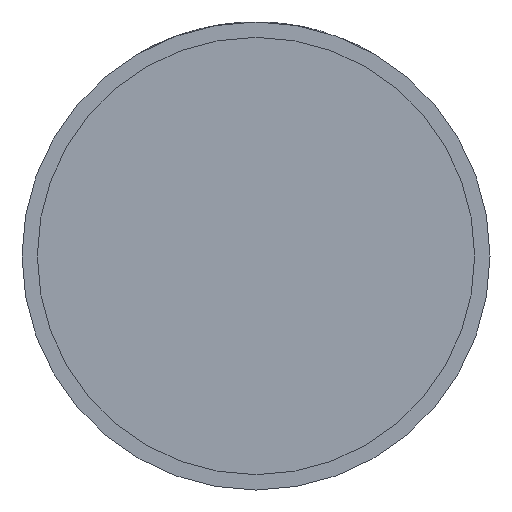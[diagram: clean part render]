
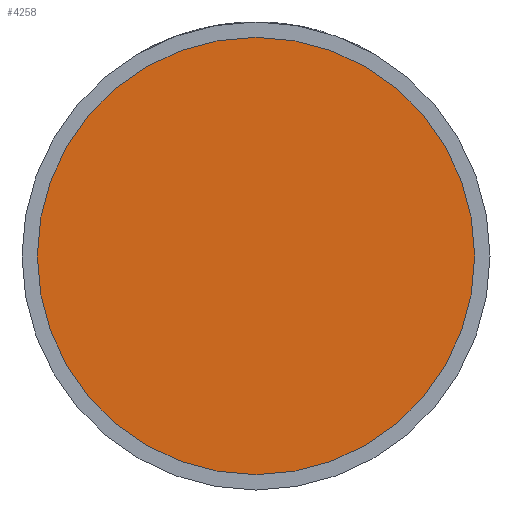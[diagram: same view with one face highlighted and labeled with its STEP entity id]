
A CAD part, front view. The second image highlights one B-rep face of the part: STEP entity #4258.
In plain terms, the highlighted planar face has unit normal (0, -1, 0).
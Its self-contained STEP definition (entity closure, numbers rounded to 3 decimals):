
#70 = VERTEX_POINT ( 'NONE', #3677 ) ;
#107 = CARTESIAN_POINT ( 'NONE',  ( 0., -17.5, 0. ) ) ;
#336 = ORIENTED_EDGE ( 'NONE', *, *, #2608, .T. ) ;
#522 = CARTESIAN_POINT ( 'NONE',  ( 28.5, -17.5, 0. ) ) ;
#805 = ORIENTED_EDGE ( 'NONE', *, *, #3625, .T. ) ;
#968 = DIRECTION ( 'NONE',  ( 0., -1., 0. ) ) ;
#1086 = CIRCLE ( 'NONE', #3984, 28.5 ) ;
#1143 = CARTESIAN_POINT ( 'NONE',  ( 28.5, -17.5, 0. ) ) ;
#1396 = DIRECTION ( 'NONE',  ( 0., -1., 0. ) ) ;
#1843 = CIRCLE ( 'NONE', #3100, 28.5 ) ;
#2454 = DIRECTION ( 'NONE',  ( 1., 0., 0. ) ) ;
#2557 = DIRECTION ( 'NONE',  ( 1., 0., 0. ) ) ;
#2608 = EDGE_CURVE ( 'NONE', #3745, #70, #1086, .T. ) ;
#2756 = DIRECTION ( 'NONE',  ( 0., -1., 0. ) ) ;
#2817 = PLANE ( 'NONE',  #2886 ) ;
#2886 = AXIS2_PLACEMENT_3D ( 'NONE', #522, #2756, #4076 ) ;
#3100 = AXIS2_PLACEMENT_3D ( 'NONE', #107, #1396, #2454 ) ;
#3206 = EDGE_LOOP ( 'NONE', ( #336, #805 ) ) ;
#3562 = CARTESIAN_POINT ( 'NONE',  ( 0., -17.5, 0. ) ) ;
#3625 = EDGE_CURVE ( 'NONE', #70, #3745, #1843, .T. ) ;
#3677 = CARTESIAN_POINT ( 'NONE',  ( -28.5, -17.5, 0. ) ) ;
#3745 = VERTEX_POINT ( 'NONE', #1143 ) ;
#3815 = FACE_OUTER_BOUND ( 'NONE', #3206, .T. ) ;
#3984 = AXIS2_PLACEMENT_3D ( 'NONE', #3562, #968, #2557 ) ;
#4076 = DIRECTION ( 'NONE',  ( 1., 0., 0. ) ) ;
#4258 = ADVANCED_FACE ( 'NONE', ( #3815 ), #2817, .T. ) ;
